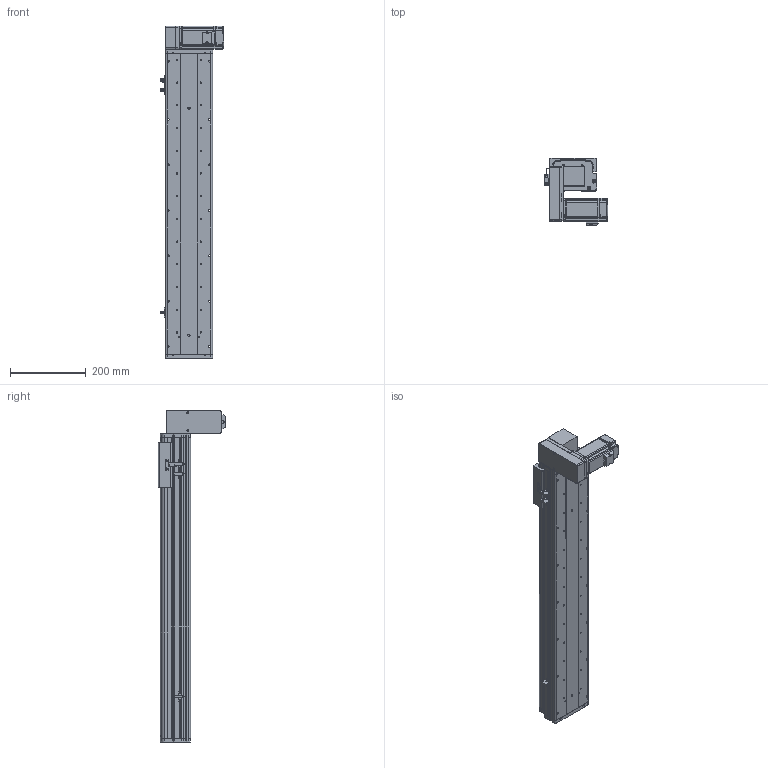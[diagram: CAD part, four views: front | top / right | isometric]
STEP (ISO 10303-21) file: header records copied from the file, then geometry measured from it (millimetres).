
FILE_DESCRIPTION (( 'STEP AP214' ), '1' );
FILE_NAME ('KSD125B-S600-MRD-CM.STEP', '2017-10-21T06:07:09', ( '微软用户' ), ( '微软中国' ), 'SwSTEP 2.0', 'SolidWorks 2014', '' );
FILE_SCHEMA (( 'AUTOMOTIVE_DESIGN' ));
Length unit declared in the file: millimetre
Products named in the file (17): HTPA30S3M150_A_H6_a佪裝蚚; HTPA30S3M150_A_H6_a萇儂蚚; 100宽马达安装板连板上下折丝杆同步带; KSD125模组600行程同步带-防尘盖; 125模组600行程同步带-底板; MHMD042G1CA_2_03; KSD125模组同步带-防撞垫2; 覜茼え68遵圉猾敕; U倰嫖萇假蚾璃; U倰嫖萇EEㄜSX672; KSD125模组同步带-防撞垫1; 100宽马达安装板同步带右; 前端板-125宽模组同步带; 125模组同步带-尾端板1; KSD125模组同步带-滑动座1; KSD125B-S600-MRD-CM; 悵誘欶奻狟殏
Assembly tree (20 placements, depth 2):
  KSD125B-S600-MRD-CM
    KSD125模组同步带-滑动座1
    125模组同步带-尾端板1
    前端板-125宽模组同步带
    100宽马达安装板同步带右
    KSD125模组同步带-防撞垫1
    U倰嫖萇EEㄜSX672  x3
    U倰嫖萇假蚾璃  x3
    覜茼え68遵圉猾敕
    KSD125模组同步带-防撞垫2
    MHMD042G1CA_2_03
    125模组600行程同步带-底板
    KSD125模组600行程同步带-防尘盖
    100宽马达安装板连板上下折丝杆同步带
    HTPA30S3M150_A_H6_a萇儂蚚
    HTPA30S3M150_A_H6_a佪裝蚚
    悵誘欶奻狟殏
Bounding box: 168.7 x 179.5 x 877 mm (x, y, z)
Volume: 2858247.2 mm3; surface area: 984083.2 mm2
Topology: 19 solids, 22 shells, 2257 faces, 6535 edges, 4318 vertices
Faces by surface type: cylinder 1408, plane 722, cone 105, bspline 22
Entity records: 80093 total; most frequent: CARTESIAN_POINT 15825, DIRECTION 12456, ORIENTED_EDGE 11590, EDGE_CURVE 5873, AXIS2_PLACEMENT_3D 4809, VERTEX_POINT 3910, VECTOR 2838, LINE 2838
